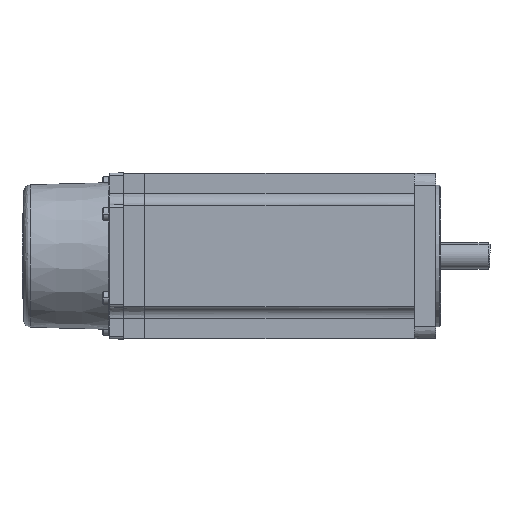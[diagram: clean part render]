
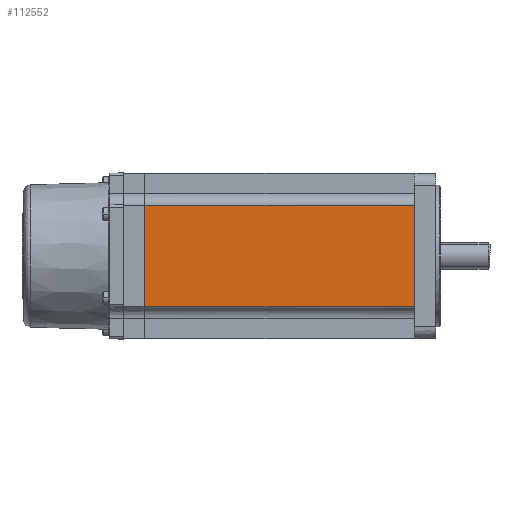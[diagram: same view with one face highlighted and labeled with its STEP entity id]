
A CAD part, front view. The second image highlights one B-rep face of the part: STEP entity #112552.
In plain terms, the highlighted planar face has unit normal (0, -1, 0) as drawn and (0, 1, 0) by its records, which use the part's own axes.
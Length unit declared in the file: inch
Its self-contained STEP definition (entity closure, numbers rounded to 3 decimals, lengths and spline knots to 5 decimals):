
#3090 = LINE ( 'NONE', #21228, #109405 ) ;
#4290 = CARTESIAN_POINT ( 'NONE',  ( -0.84711, 1.37795, 3.22835 ) ) ;
#5309 = DIRECTION ( 'NONE',  ( 1., 0., 0. ) ) ;
#6947 = DIRECTION ( 'NONE',  ( 0., 1., 0. ) ) ;
#9528 = DIRECTION ( 'NONE',  ( 0., 0., 1. ) ) ;
#21228 = CARTESIAN_POINT ( 'NONE',  ( -0.84711, 1.37795, 4.6063 ) ) ;
#23251 = VERTEX_POINT ( 'NONE', #53999 ) ;
#26253 = VECTOR ( 'NONE', #9528, 39.37008 ) ;
#26754 = ORIENTED_EDGE ( 'NONE', *, *, #40295, .T. ) ;
#29737 = EDGE_CURVE ( 'NONE', #127024, #130205, #3090, .T. ) ;
#32334 = VECTOR ( 'NONE', #5309, 39.37008 ) ;
#38682 = CARTESIAN_POINT ( 'NONE',  ( -1.37795, 1.37795, -1.25984 ) ) ;
#38747 = ORIENTED_EDGE ( 'NONE', *, *, #123007, .F. ) ;
#40295 = EDGE_CURVE ( 'NONE', #127024, #23251, #138703, .T. ) ;
#44919 = ORIENTED_EDGE ( 'NONE', *, *, #129468, .F. ) ;
#48070 = LINE ( 'NONE', #38682, #82127 ) ;
#53999 = CARTESIAN_POINT ( 'NONE',  ( 0.84711, 1.37795, 3.22835 ) ) ;
#58807 = VERTEX_POINT ( 'NONE', #151783 ) ;
#60395 = LINE ( 'NONE', #72843, #26253 ) ;
#66876 = CARTESIAN_POINT ( 'NONE',  ( -0.84711, 1.37795, -1.25984 ) ) ;
#69156 = CARTESIAN_POINT ( 'NONE',  ( -1.37795, 1.37795, 3.22835 ) ) ;
#72843 = CARTESIAN_POINT ( 'NONE',  ( 0.84711, 1.37795, -1.25984 ) ) ;
#82127 = VECTOR ( 'NONE', #117647, 39.37008 ) ;
#83712 = PLANE ( 'NONE',  #160690 ) ;
#96596 = DIRECTION ( 'NONE',  ( 0., 0., 1. ) ) ;
#102390 = ORIENTED_EDGE ( 'NONE', *, *, #29737, .F. ) ;
#109405 = VECTOR ( 'NONE', #136170, 39.37008 ) ;
#112181 = FACE_OUTER_BOUND ( 'NONE', #138284, .T. ) ;
#112552 = ADVANCED_FACE ( 'NONE', ( #112181 ), #83712, .T. ) ;
#117647 = DIRECTION ( 'NONE',  ( 1., 0., 0. ) ) ;
#121792 = CARTESIAN_POINT ( 'NONE',  ( -1.37795, 1.37795, 3.22835 ) ) ;
#123007 = EDGE_CURVE ( 'NONE', #58807, #23251, #60395, .T. ) ;
#127024 = VERTEX_POINT ( 'NONE', #4290 ) ;
#129468 = EDGE_CURVE ( 'NONE', #130205, #58807, #48070, .T. ) ;
#130205 = VERTEX_POINT ( 'NONE', #66876 ) ;
#136170 = DIRECTION ( 'NONE',  ( 0., 0., -1. ) ) ;
#138284 = EDGE_LOOP ( 'NONE', ( #38747, #44919, #102390, #26754 ) ) ;
#138703 = LINE ( 'NONE', #69156, #32334 ) ;
#151783 = CARTESIAN_POINT ( 'NONE',  ( 0.84711, 1.37795, -1.25984 ) ) ;
#160690 = AXIS2_PLACEMENT_3D ( 'NONE', #121792, #6947, #96596 ) ;
